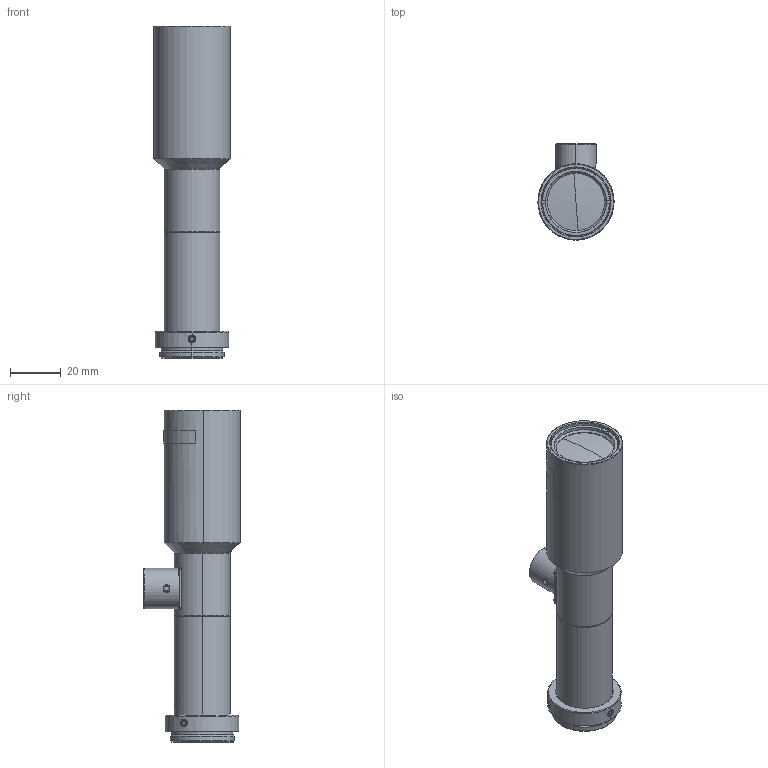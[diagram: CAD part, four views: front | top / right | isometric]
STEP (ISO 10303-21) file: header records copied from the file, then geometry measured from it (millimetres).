
FILE_DESCRIPTION(('LS-FFL-0006'),'2;1');
FILE_NAME('LS-FFL-0006.stp','2026-10-15T21:48:04',('LumaSpec Vision'),('LumaSpec Vision'),'LumaSpec Vision','LumaSpec Vision','');
FILE_SCHEMA(('AUTOMOTIVE_DESIGN { 1 0 10303 214 1 1 1 1 }'));
Length unit declared in the file: millimetre
Products named in the file (18): LS-FFL-0006
Assembly tree (17 placements, depth 2):
  LS-FFL-0006
    (unnamed)
    (unnamed)
    (unnamed)
    (unnamed)
    (unnamed)
    (unnamed)
    (unnamed)
    (unnamed)
    (unnamed)
    (unnamed)
    (unnamed)
    (unnamed)
    (unnamed)
    (unnamed)
    (unnamed)
    (unnamed)
    (unnamed)
Bounding box: 29.99 x 37.99 x 130.73 mm (x, y, z)
Volume: 35982.9 mm3; surface area: 27297.2 mm2
Topology: 17 solids, 17 shells, 536 faces, 1242 edges, 770 vertices
Faces by surface type: plane 210, cylinder 147, cone 143, torus 16, sphere 12, bspline 8
Entity records: 40315 total; most frequent: CARTESIAN_POINT 14931, DIRECTION 4873, ORIENTED_EDGE 2468, PCURVE 2468, DEFINITIONAL_REPRESENTATION 2468, LINE 2349, VECTOR 2349, EDGE_CURVE 1234
